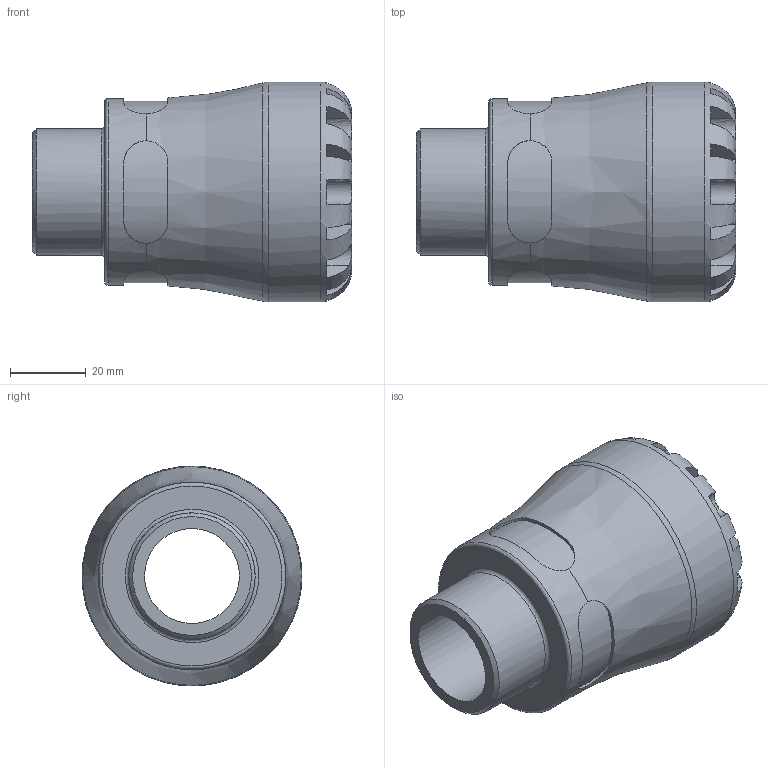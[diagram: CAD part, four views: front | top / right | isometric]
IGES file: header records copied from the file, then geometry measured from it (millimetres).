
Global section: file name: 1002A6T010010; native system: Autodesk Inventor 2019; preprocessor: unknown; author: KIM; date: 20210902.143427; units: inch
Bounding box: 84.07 x 57.91 x 57.91 mm (x, y, z)
Volume: 96642 mm3; surface area: 25179.2 mm2
Topology: 1 solids, 1 shells, 100 faces, 273 edges, 177 vertices
Faces by surface type: bspline 100
